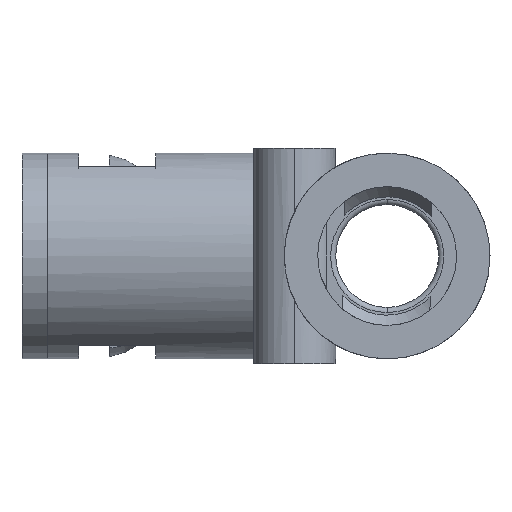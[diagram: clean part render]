
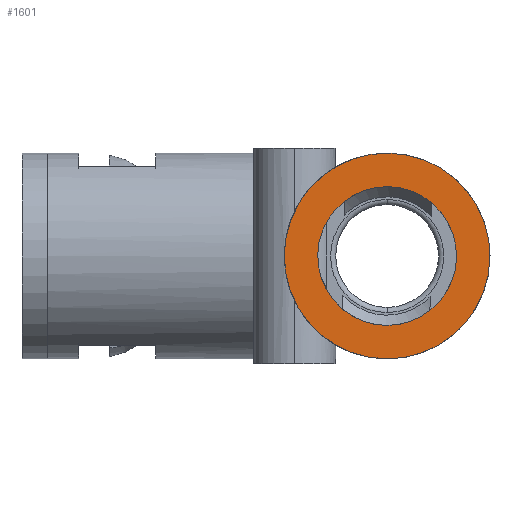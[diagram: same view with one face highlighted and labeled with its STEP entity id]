
A CAD part, left-side view. The second image highlights one B-rep face of the part: STEP entity #1601.
In plain terms, the highlighted planar face has unit normal (-1, 0, 0) as drawn and (0, 1, 0) by its records, which use the part's own axes.
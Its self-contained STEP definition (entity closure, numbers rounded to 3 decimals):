
#1380 = VERTEX_POINT ( 'NONE', #4288 ) ;
#1400 = EDGE_CURVE ( 'NONE', #1473, #1380, #4307, .T. ) ;
#1473 = VERTEX_POINT ( 'NONE', #4580 ) ;
#1488 = VERTEX_POINT ( 'NONE', #4544 ) ;
#1512 = VERTEX_POINT ( 'NONE', #4503 ) ;
#1529 = EDGE_CURVE ( 'NONE', #1512, #1488, #4908, .T. ) ;
#1593 = EDGE_CURVE ( 'NONE', #1488, #1512, #4851, .T. ) ;
#1601 = ADVANCED_FACE ( 'NONE', ( #4857, #4833 ), #4706, .F. ) ;
#1602 = ORIENTED_EDGE ( 'NONE', *, *, #1400, .T. ) ;
#1605 = ORIENTED_EDGE ( 'NONE', *, *, #1673, .T. ) ;
#1621 = EDGE_LOOP ( 'NONE', ( #1605, #1602 ) ) ;
#1650 = ORIENTED_EDGE ( 'NONE', *, *, #1529, .F. ) ;
#1658 = ORIENTED_EDGE ( 'NONE', *, *, #1593, .F. ) ;
#1673 = EDGE_CURVE ( 'NONE', #1380, #1473, #4916, .T. ) ;
#1693 = EDGE_LOOP ( 'NONE', ( #1650, #1658 ) ) ;
#4288 = CARTESIAN_POINT ( 'NONE',  ( -5.982, 10.849, 0. ) ) ;
#4299 = CARTESIAN_POINT ( 'NONE',  ( -12.732, 10.849, 0. ) ) ;
#4307 = CIRCLE ( 'NONE', #4376, 6.75 ) ;
#4374 = DIRECTION ( 'NONE',  ( 1., 0., 0. ) ) ;
#4375 = DIRECTION ( 'NONE',  ( 0., -1., 0. ) ) ;
#4376 = AXIS2_PLACEMENT_3D ( 'NONE', #4299, #4375, #4374 ) ;
#4503 = CARTESIAN_POINT ( 'NONE',  ( -2.732, 10.849, 0. ) ) ;
#4544 = CARTESIAN_POINT ( 'NONE',  ( -22.732, 10.849, 0. ) ) ;
#4580 = CARTESIAN_POINT ( 'NONE',  ( -19.482, 10.849, 0. ) ) ;
#4697 = DIRECTION ( 'NONE',  ( 1., 0., 0. ) ) ;
#4698 = DIRECTION ( 'NONE',  ( 0., -1., 0. ) ) ;
#4705 = CARTESIAN_POINT ( 'NONE',  ( -12.732, 10.849, -6.75 ) ) ;
#4706 = PLANE ( 'NONE',  #4834 ) ;
#4833 = FACE_OUTER_BOUND ( 'NONE', #1693, .T. ) ;
#4834 = AXIS2_PLACEMENT_3D ( 'NONE', #4705, #4698, #4697 ) ;
#4835 = DIRECTION ( 'NONE',  ( 1., 0., 0. ) ) ;
#4836 = DIRECTION ( 'NONE',  ( 0., -1., 0. ) ) ;
#4837 = CARTESIAN_POINT ( 'NONE',  ( -12.732, 10.849, 0. ) ) ;
#4838 = AXIS2_PLACEMENT_3D ( 'NONE', #4837, #4836, #4835 ) ;
#4851 = CIRCLE ( 'NONE', #4838, 10. ) ;
#4857 = FACE_BOUND ( 'NONE', #1621, .T. ) ;
#4862 = DIRECTION ( 'NONE',  ( 1., 0., 0. ) ) ;
#4863 = DIRECTION ( 'NONE',  ( 0., -1., 0. ) ) ;
#4902 = CARTESIAN_POINT ( 'NONE',  ( -12.732, 10.849, 0. ) ) ;
#4903 = AXIS2_PLACEMENT_3D ( 'NONE', #4902, #4863, #4862 ) ;
#4908 = CIRCLE ( 'NONE', #4903, 10. ) ;
#4916 = CIRCLE ( 'NONE', #4950, 6.75 ) ;
#4917 = DIRECTION ( 'NONE',  ( 0., -1., 0. ) ) ;
#4922 = CARTESIAN_POINT ( 'NONE',  ( -12.732, 10.849, 0. ) ) ;
#4934 = DIRECTION ( 'NONE',  ( 1., 0., 0. ) ) ;
#4950 = AXIS2_PLACEMENT_3D ( 'NONE', #4922, #4917, #4934 ) ;
